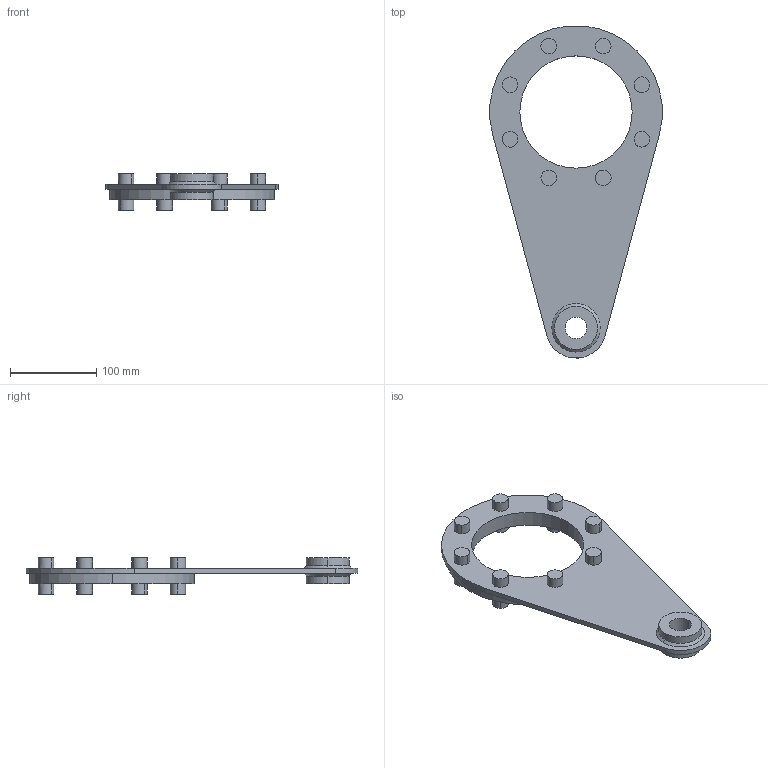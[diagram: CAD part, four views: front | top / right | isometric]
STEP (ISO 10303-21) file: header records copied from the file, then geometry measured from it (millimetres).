
FILE_DESCRIPTION(/* description */ (''),/* implementation_level */ '2;1');
FILE_NAME(/* name */ '6_BRAZZIO DI REAZIONE B103',/* time_stamp */ '2025-10-22T11:14:55+02:00',/* author */ (''),/* organization */ (''),/* preprocessor_version */ 'ST-DEVELOPER v19.2',/* originating_system */ 'Rhino 8.23',/* authorisation */ '');
FILE_SCHEMA (('CONFIG_CONTROL_DESIGN'));
Length unit declared in the file: millimetre
Products named in the file (2): Document; 103-250U-B10008_1
Bounding box: 199.26 x 384.49 x 42 mm (x, y, z)
Volume: 499251.4 mm3; surface area: 114148.4 mm2
Topology: 1 solids, 1 shells, 71 faces, 160 edges, 110 vertices
Faces by surface type: cylinder 44, plane 23, bspline 4
Entity records: 2465 total; most frequent: CARTESIAN_POINT 647, ORIENTED_EDGE 320, DIRECTION 287, AXIS2_PLACEMENT_3D 177, EDGE_CURVE 160, VERTEX_POINT 110, TRIMMED_CURVE 106, CIRCLE 106
